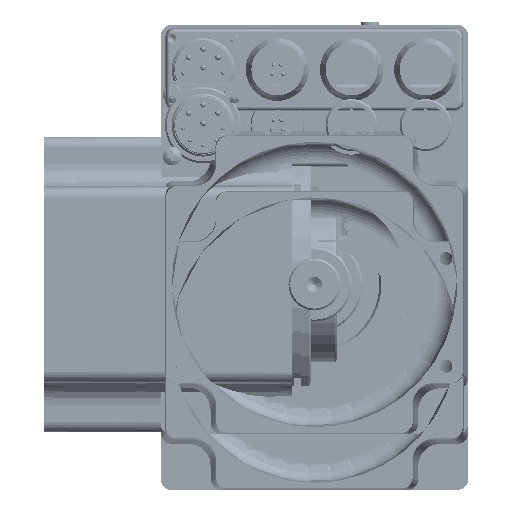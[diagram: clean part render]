
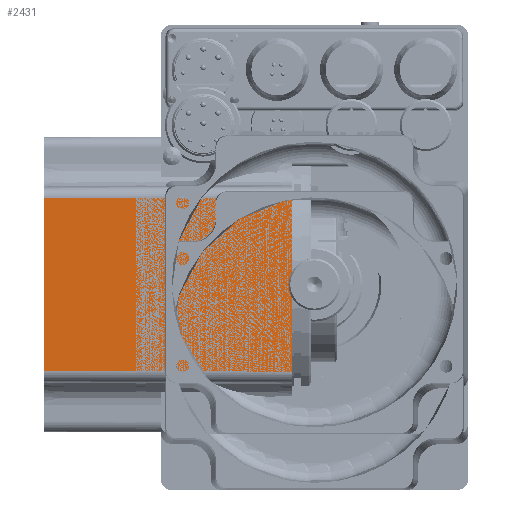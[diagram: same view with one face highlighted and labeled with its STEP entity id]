
A CAD part, front view. The second image highlights one B-rep face of the part: STEP entity #2431.
In plain terms, the highlighted planar face has unit normal (-0.003, -1, 0).
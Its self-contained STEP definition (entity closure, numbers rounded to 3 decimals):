
#2431 = ADVANCED_FACE( '', ( #6555 ), #6556, .T. );
#6555 = FACE_OUTER_BOUND( '', #13871, .T. );
#6556 = PLANE( '', #13872 );
#13871 = EDGE_LOOP( '', ( #30567, #30568, #30569, #30570 ) );
#13872 = AXIS2_PLACEMENT_3D( '', #30571, #30572, #30573 );
#30567 = ORIENTED_EDGE( '', *, *, #41772, .T. );
#30568 = ORIENTED_EDGE( '', *, *, #41773, .T. );
#30569 = ORIENTED_EDGE( '', *, *, #41774, .T. );
#30570 = ORIENTED_EDGE( '', *, *, #41775, .T. );
#30571 = CARTESIAN_POINT( '', ( -5., -40., 0. ) );
#30572 = DIRECTION( '', ( -0.003, -1., 0. ) );
#30573 = DIRECTION( '', ( 1., -0.003, 0. ) );
#41772 = EDGE_CURVE( '', #47651, #47652, #47653, .T. );
#41773 = EDGE_CURVE( '', #47652, #47654, #47655, .T. );
#41774 = EDGE_CURVE( '', #47654, #47656, #47657, .T. );
#41775 = EDGE_CURVE( '', #47656, #47651, #47658, .T. );
#47651 = VERTEX_POINT( '', #61923 );
#47652 = VERTEX_POINT( '', #61924 );
#47653 = LINE( '', #61925, #61926 );
#47654 = VERTEX_POINT( '', #61927 );
#47655 = LINE( '', #61928, #61929 );
#47656 = VERTEX_POINT( '', #61930 );
#47657 = LINE( '', #61931, #61932 );
#47658 = LINE( '', #61933, #61934 );
#61923 = CARTESIAN_POINT( '', ( -73., -39.802, -23.302 ) );
#61924 = CARTESIAN_POINT( '', ( -6., -39.997, -23.497 ) );
#61925 = CARTESIAN_POINT( '', ( -4.991, -40., -23.5 ) );
#61926 = VECTOR( '', #71672, 1000. );
#61927 = CARTESIAN_POINT( '', ( -6., -39.997, 23.497 ) );
#61928 = CARTESIAN_POINT( '', ( -6., -39.997, 0. ) );
#61929 = VECTOR( '', #71673, 1000. );
#61930 = CARTESIAN_POINT( '', ( -73., -39.802, 23.302 ) );
#61931 = CARTESIAN_POINT( '', ( -98.991, -39.727, 23.227 ) );
#61932 = VECTOR( '', #71674, 1000. );
#61933 = CARTESIAN_POINT( '', ( -73., -39.802, 0. ) );
#61934 = VECTOR( '', #71675, 1000. );
#71672 = DIRECTION( '', ( 1., -0.003, -0.003 ) );
#71673 = DIRECTION( '', ( 0., 0., 1. ) );
#71674 = DIRECTION( '', ( -1., 0.003, -0.003 ) );
#71675 = DIRECTION( '', ( 0., 0., -1. ) );
